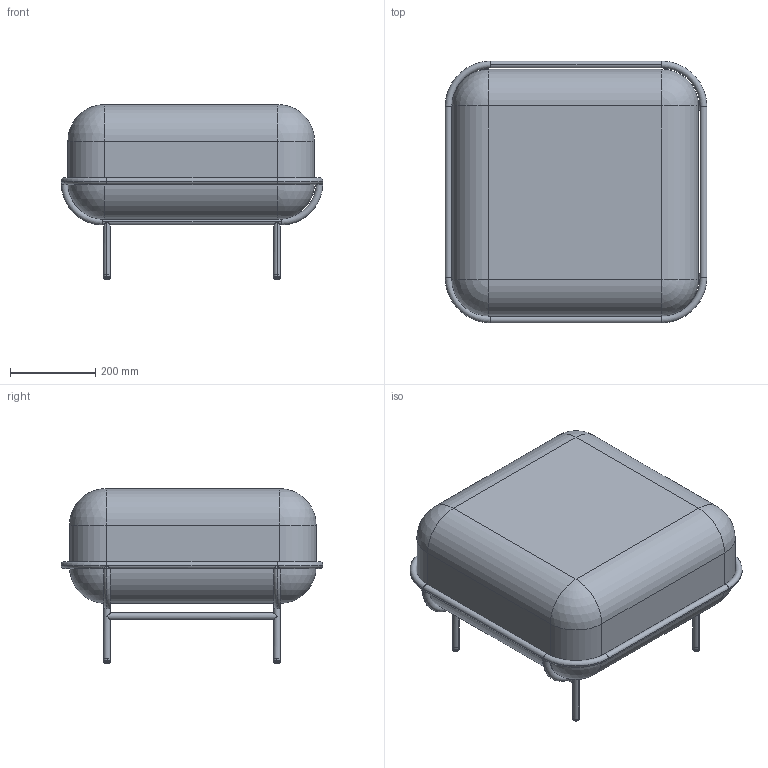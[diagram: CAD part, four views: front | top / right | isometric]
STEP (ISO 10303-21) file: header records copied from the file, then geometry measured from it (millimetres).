
FILE_DESCRIPTION (( 'STEP AP203' ), '1' );
FILE_NAME ('DOKI_Pufa_UFA.STEP', '2019-10-08T13:50:36', ( '' ), ( '' ), 'SwSTEP 2.0', 'SolidWorks 2019', '' );
FILE_SCHEMA (( 'CONFIG_CONTROL_DESIGN' ));
Length unit declared in the file: millimetre
Products named in the file (7): Group3^UFA_Model_2018_defeature; PUFA_GABKA-1^UFA_Model_2018_defeature; r9-1^UFA_Model_2018_defeature; DOKI_Pufa_UFA
Assembly tree (3 placements, depth 2):
  Group3^UFA_Model_2018_defeature
  r9-1^UFA_Model_2018_defeature
  DOKI_Pufa_UFA
    Group3^UFA_Model_2018_defeature
    r9-1^UFA_Model_2018_defeature
    PUFA_GABKA-1^UFA_Model_2018_defeature
  PUFA_GABKA-1^UFA_Model_2018_defeature
Bounding box: 616 x 616 x 411.1 mm (x, y, z)
Volume: 83591021.3 mm3; surface area: 1327745.1 mm2
Topology: 6 solids, 6 shells, 146 faces, 328 edges, 184 vertices
Faces by surface type: cylinder 72, torus 40, plane 26, sphere 8
Entity records: 4842 total; most frequent: CARTESIAN_POINT 969, DIRECTION 774, ORIENTED_EDGE 640, AXIS2_PLACEMENT_3D 341, EDGE_CURVE 320, CIRCLE 188, VERTEX_POINT 184, EDGE_LOOP 154
